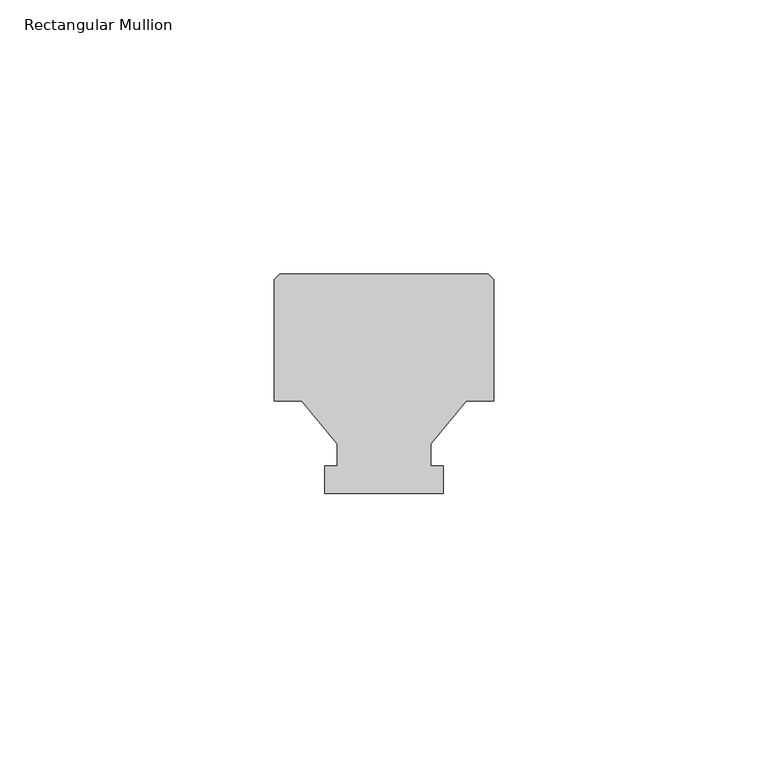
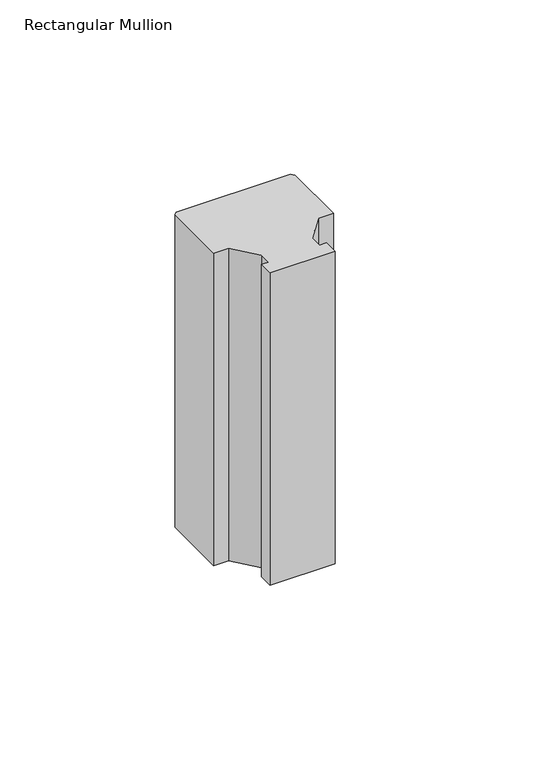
"""IFC4 building model written with IfcOpenShell, lengths in millimetres: member geometry, Rectangular Mullion : Batten_Timber_Modinex_Austratus_Grid_Fin_40x40_AlaskanYellowCedar."""

from ifc_helpers import new_model, si_unit, frame, origin, place, context, project, spatial, polyline, outline, extrude, source, transform, mapped, element, save


def rectangular_mullion_71680797(model_context):
    return source(origin(), model_context, "Body", "SweptSolid", [
        extrude(outline(polyline([(0.0, 16.8079815), (-5.0, 16.8079815), (-11.5, 9.0), (-11.5, 5.0), (-9.187805, 5.0), (-9.187805, 0.0), (-30.812195, 0.0), (-30.812195, 5.0), (-28.5, 5.0), (-28.5, 9.0), (-35.0, 16.8079815), (-40.0, 16.8079815), (-40.0, 39.0), (-39.0, 40.0), (-1.0, 40.0), (0.0, 39.0), (0.0, 16.8079815)])), frame((0.0, 0.0, -110.0), z_axis=(0.0, 0.0, 1.0), x_axis=(1.0, 0.0, 0.0)), (0.0, 0.0, 1.0), 110.0),
    ])


if __name__ == "__main__":
    model = new_model("IFC4")
    model_context = context("Model", 3, world=origin())
    ifc_project = project(units=[si_unit("LENGTHUNIT", "METRE", prefix="MILLI")], contexts=[model_context])
    site = spatial("IfcSite", under=ifc_project)
    building = spatial("IfcBuilding", under=site)
    placement = place(None, origin())
    rectangular_mullion_shape = rectangular_mullion_71680797(model_context)
    element("IfcMember", 1, ObjectType="Rectangular Mullion : Batten_Timber_Modinex_Austratus_Grid_Fin_40x40_AlaskanYellowCedar", at=placement, inside=building, context=model_context, shape_type="MappedRepresentation", body=[
        mapped(rectangular_mullion_shape, transform((0.0, 0.0, 0.0), x_axis=(1.0, 0.0, 0.0), y_axis=(0.0, 1.0, 0.0), z_axis=(0.0, 0.0, 1.0))),
    ])
    save(model, "model.ifc")
